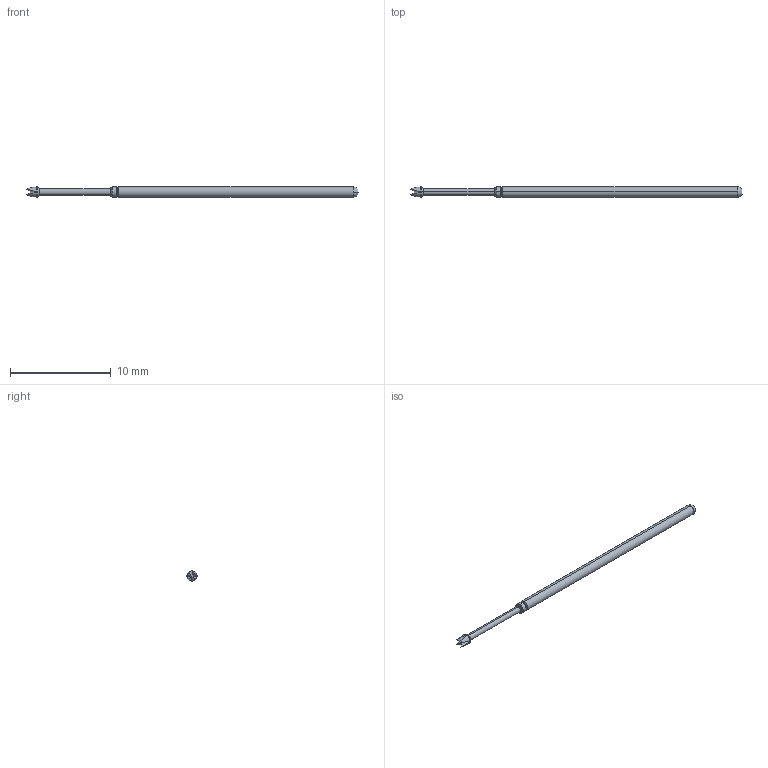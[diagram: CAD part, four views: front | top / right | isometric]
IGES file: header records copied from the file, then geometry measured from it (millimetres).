
Start section: SolidWorks IGES file using analytic representation for surfaces
Global section: file name: Z:\probe solid model mockups\Solidworks models\Parts\LFRE-1L.IGS; native system: SolidWorks 2016; preprocessor: SolidWorks 2016; author: mlee; date: 180927.163514; units: inch
Bounding box: 33.02 x 1.02 x 1.02 mm (x, y, z)
Surface area: 97.5 mm2 (no closed solid volume)
Topology: 0 solids, 0 shells, 32 faces, 186 edges, 186 vertices
Faces by surface type: revolution 18, bspline 14
